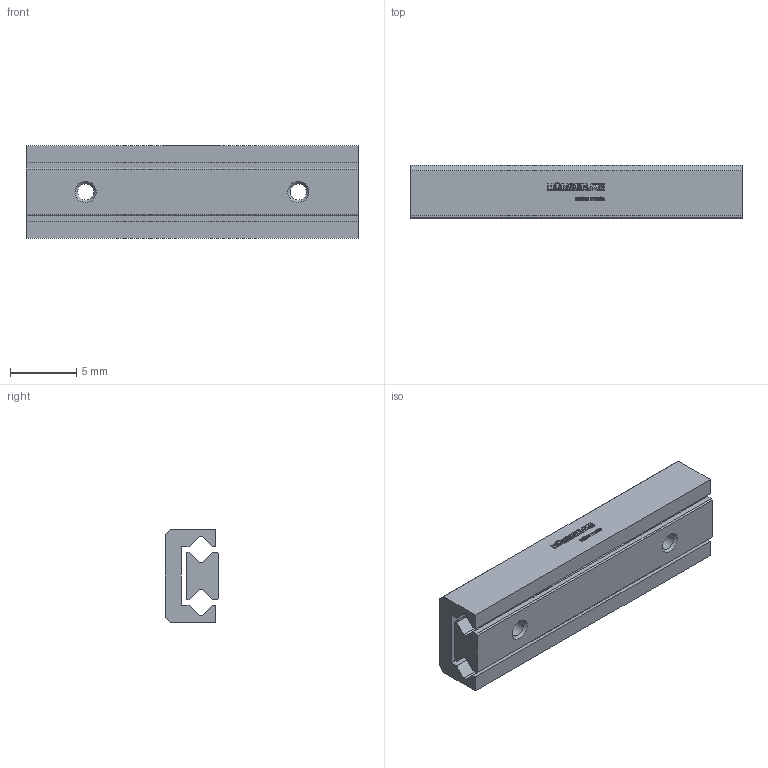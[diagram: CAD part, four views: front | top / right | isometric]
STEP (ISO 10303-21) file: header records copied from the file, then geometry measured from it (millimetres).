
FILE_DESCRIPTION(/* description */ ('STEP AP214'),/* implementation_level */ '2;1');
FILE_NAME(/* name */ 'MSR 4-25.22(0)',/* time_stamp */ '2025-04-16T17:16:20+02:00',/* author */ ('License CC BY-ND 4.0'),/* organization */ ('CADENAS'),/* preprocessor_version */ 'ST-DEVELOPER v19.3',/* originating_system */ 'PARTsolutions',/* authorisation */ ' ');
FILE_SCHEMA (('AUTOMOTIVE_DESIGN {1 0 10303 214 3 1 1}'));
Length unit declared in the file: millimetre
Products named in the file (3): MSR 4-25.22(0); MSR 4-25.22_1; MSR 4-25.22_2
Assembly tree (2 placements, depth 2):
  MSR 4-25.22(0)
    MSR 4-25.22_1
    MSR 4-25.22_2
Bounding box: 25 x 4 x 7 mm (x, y, z)
Volume: 507.8 mm3; surface area: 1084.6 mm2
Topology: 2 solids, 2 shells, 513 faces, 1442 edges, 960 vertices
Faces by surface type: cylinder 300, plane 207, cone 6
Full cylindrical faces by diameter (mm): 1.221 x4
Entity records: 16813 total; most frequent: DIRECTION 3068, CARTESIAN_POINT 2904, ORIENTED_EDGE 2860, EDGE_CURVE 1430, AXIS2_PLACEMENT_3D 1122, VERTEX_POINT 958, LINE 824, VECTOR 824
